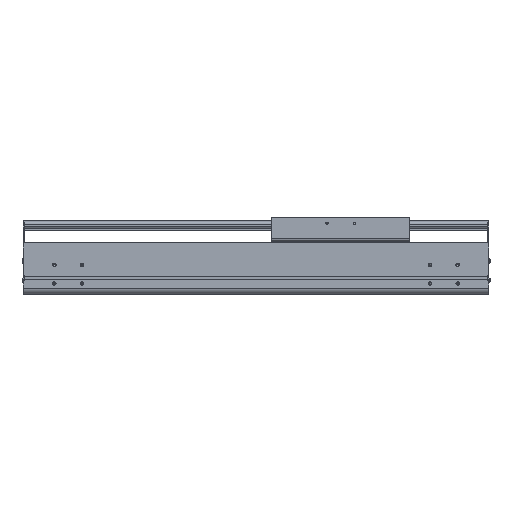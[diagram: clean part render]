
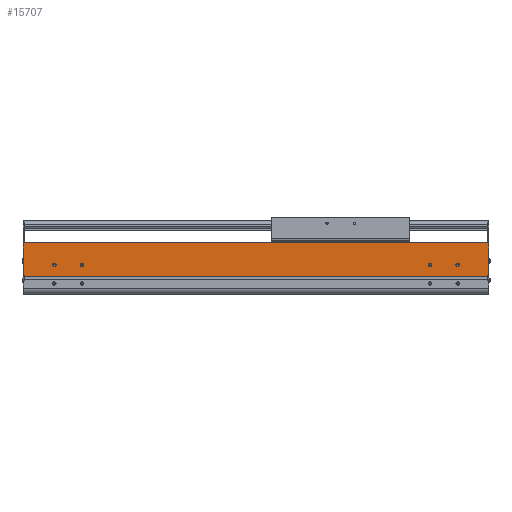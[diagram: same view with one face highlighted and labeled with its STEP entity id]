
A CAD part, top view. The second image highlights one B-rep face of the part: STEP entity #15707.
In plain terms, the highlighted planar face has unit normal (0, 0, 1).
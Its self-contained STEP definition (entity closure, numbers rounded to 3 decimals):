
#1630=DIRECTION('',(0.,-1.,0.));
#1631=VECTOR('',#1630,2.55);
#1632=CARTESIAN_POINT('',(0.,34.65,107.));
#1633=LINE('',#1632,#1631);
#2113=DIRECTION('',(1.,0.,0.));
#2114=VECTOR('',#2113,2.);
#2115=CARTESIAN_POINT('',(-841.,34.65,107.));
#2116=LINE('',#2115,#2114);
#2117=CARTESIAN_POINT('',(-54.5,54.,107.));
#2118=DIRECTION('',(0.,0.,-1.));
#2119=DIRECTION('',(1.,0.,0.));
#2120=AXIS2_PLACEMENT_3D('',#2117,#2118,#2119);
#2122=CARTESIAN_POINT('',(-54.5,54.,107.));
#2123=DIRECTION('',(0.,0.,-1.));
#2124=DIRECTION('',(-1.,0.,0.));
#2125=AXIS2_PLACEMENT_3D('',#2122,#2123,#2124);
#2127=CARTESIAN_POINT('',(-104.5,54.,107.));
#2128=DIRECTION('',(0.,0.,-1.));
#2129=DIRECTION('',(1.,0.,0.));
#2130=AXIS2_PLACEMENT_3D('',#2127,#2128,#2129);
#2132=CARTESIAN_POINT('',(-104.5,54.,107.));
#2133=DIRECTION('',(0.,0.,-1.));
#2134=DIRECTION('',(-1.,0.,0.));
#2135=AXIS2_PLACEMENT_3D('',#2132,#2133,#2134);
#2137=CARTESIAN_POINT('',(-784.5,54.,107.));
#2138=DIRECTION('',(0.,0.,-1.));
#2139=DIRECTION('',(1.,0.,0.));
#2140=AXIS2_PLACEMENT_3D('',#2137,#2138,#2139);
#2142=CARTESIAN_POINT('',(-784.5,54.,107.));
#2143=DIRECTION('',(0.,0.,-1.));
#2144=DIRECTION('',(-1.,0.,0.));
#2145=AXIS2_PLACEMENT_3D('',#2142,#2143,#2144);
#2147=CARTESIAN_POINT('',(-734.5,54.,107.));
#2148=DIRECTION('',(0.,0.,-1.));
#2149=DIRECTION('',(1.,0.,0.));
#2150=AXIS2_PLACEMENT_3D('',#2147,#2148,#2149);
#2152=CARTESIAN_POINT('',(-734.5,54.,107.));
#2153=DIRECTION('',(0.,0.,-1.));
#2154=DIRECTION('',(-1.,0.,0.));
#2155=AXIS2_PLACEMENT_3D('',#2152,#2153,#2154);
#2157=DIRECTION('',(0.,-1.,0.));
#2158=VECTOR('',#2157,2.55);
#2159=CARTESIAN_POINT('',(-839.,34.65,107.));
#2160=LINE('',#2159,#2158);
#2161=DIRECTION('',(0.,-1.,0.));
#2162=VECTOR('',#2161,58.85);
#2163=CARTESIAN_POINT('',(-841.,93.5,107.));
#2164=LINE('',#2163,#2162);
#2165=DIRECTION('',(0.,1.,0.));
#2166=VECTOR('',#2165,58.85);
#2167=CARTESIAN_POINT('',(2.,34.65,107.));
#2168=LINE('',#2167,#2166);
#2169=DIRECTION('',(1.,0.,0.));
#2170=VECTOR('',#2169,839.);
#2171=CARTESIAN_POINT('',(-839.,32.1,107.));
#2172=LINE('',#2171,#2170);
#2277=DIRECTION('',(-1.,0.,0.));
#2278=VECTOR('',#2277,843.);
#2279=CARTESIAN_POINT('',(2.,93.5,107.));
#2280=LINE('',#2279,#2278);
#9051=DIRECTION('',(1.,0.,0.));
#9052=VECTOR('',#9051,2.);
#9053=CARTESIAN_POINT('',(0.,34.65,107.));
#9054=LINE('',#9053,#9052);
#10301=CARTESIAN_POINT('',(-841.,34.65,107.));
#10302=VERTEX_POINT('',#10301);
#10303=CARTESIAN_POINT('',(-841.,93.5,107.));
#10304=VERTEX_POINT('',#10303);
#10533=CARTESIAN_POINT('',(-839.,32.1,107.));
#10534=VERTEX_POINT('',#10533);
#10921=CARTESIAN_POINT('',(0.,32.1,107.));
#10922=VERTEX_POINT('',#10921);
#10923=CARTESIAN_POINT('',(-52.,54.,107.));
#10924=CARTESIAN_POINT('',(-57.,54.,107.));
#10925=VERTEX_POINT('',#10923);
#10926=VERTEX_POINT('',#10924);
#10927=CARTESIAN_POINT('',(-102.,54.,107.));
#10928=CARTESIAN_POINT('',(-107.,54.,107.));
#10929=VERTEX_POINT('',#10927);
#10930=VERTEX_POINT('',#10928);
#10931=CARTESIAN_POINT('',(-782.,54.,107.));
#10932=CARTESIAN_POINT('',(-787.,54.,107.));
#10933=VERTEX_POINT('',#10931);
#10934=VERTEX_POINT('',#10932);
#10935=CARTESIAN_POINT('',(-732.,54.,107.));
#10936=CARTESIAN_POINT('',(-737.,54.,107.));
#10937=VERTEX_POINT('',#10935);
#10938=VERTEX_POINT('',#10936);
#11897=CARTESIAN_POINT('',(2.,34.65,107.));
#11898=VERTEX_POINT('',#11897);
#11899=CARTESIAN_POINT('',(2.,93.5,107.));
#11900=VERTEX_POINT('',#11899);
#12243=CARTESIAN_POINT('',(0.,34.65,107.));
#12244=VERTEX_POINT('',#12243);
#12431=CARTESIAN_POINT('',(-839.,34.65,107.));
#12432=VERTEX_POINT('',#12431);
#15665=CARTESIAN_POINT('',(-419.5,62.8,107.));
#15666=DIRECTION('',(0.,0.,1.));
#15667=DIRECTION('',(0.,-1.,0.));
#15668=AXIS2_PLACEMENT_3D('',#15665,#15666,#15667);
#15669=PLANE('',#15668);
#15670=ORIENTED_EDGE('',*,*,#13918,.F.);
#15671=ORIENTED_EDGE('',*,*,#15660,.F.);
#15672=ORIENTED_EDGE('',*,*,#14547,.F.);
#15674=ORIENTED_EDGE('',*,*,#15673,.F.);
#15675=ORIENTED_EDGE('',*,*,#13656,.F.);
#15677=ORIENTED_EDGE('',*,*,#15676,.F.);
#15678=ORIENTED_EDGE('',*,*,#15267,.T.);
#15680=ORIENTED_EDGE('',*,*,#15679,.F.);
#15681=EDGE_LOOP('',(#15670,#15671,#15672,#15674,#15675,#15677,#15678,#15680));
#15682=FACE_OUTER_BOUND('',#15681,.F.);
#15684=ORIENTED_EDGE('',*,*,#15683,.F.);
#15686=ORIENTED_EDGE('',*,*,#15685,.F.);
#15687=EDGE_LOOP('',(#15684,#15686));
#15688=FACE_BOUND('',#15687,.F.);
#15690=ORIENTED_EDGE('',*,*,#15689,.F.);
#15692=ORIENTED_EDGE('',*,*,#15691,.F.);
#15693=EDGE_LOOP('',(#15690,#15692));
#15694=FACE_BOUND('',#15693,.F.);
#15696=ORIENTED_EDGE('',*,*,#15695,.F.);
#15698=ORIENTED_EDGE('',*,*,#15697,.F.);
#15699=EDGE_LOOP('',(#15696,#15698));
#15700=FACE_BOUND('',#15699,.F.);
#15702=ORIENTED_EDGE('',*,*,#15701,.F.);
#15704=ORIENTED_EDGE('',*,*,#15703,.F.);
#15705=EDGE_LOOP('',(#15702,#15704));
#15706=FACE_BOUND('',#15705,.F.);
#15707=ADVANCED_FACE('',(#15682,#15688,#15694,#15700,#15706),#15669,.T.);
#2121=CIRCLE('',#2120,2.5);
#2126=CIRCLE('',#2125,2.5);
#2131=CIRCLE('',#2130,2.5);
#2136=CIRCLE('',#2135,2.5);
#2141=CIRCLE('',#2140,2.5);
#2146=CIRCLE('',#2145,2.5);
#2151=CIRCLE('',#2150,2.5);
#2156=CIRCLE('',#2155,2.5);
#13656=EDGE_CURVE('',#11898,#11900,#2168,.T.);
#13918=EDGE_CURVE('',#12432,#10534,#2160,.T.);
#14547=EDGE_CURVE('',#10304,#10302,#2164,.T.);
#15267=EDGE_CURVE('',#12244,#10922,#1633,.T.);
#15660=EDGE_CURVE('',#10302,#12432,#2116,.T.);
#15673=EDGE_CURVE('',#11900,#10304,#2280,.T.);
#15676=EDGE_CURVE('',#12244,#11898,#9054,.T.);
#15679=EDGE_CURVE('',#10534,#10922,#2172,.T.);
#15683=EDGE_CURVE('',#10929,#10930,#2131,.T.);
#15685=EDGE_CURVE('',#10930,#10929,#2136,.T.);
#15689=EDGE_CURVE('',#10933,#10934,#2141,.T.);
#15691=EDGE_CURVE('',#10934,#10933,#2146,.T.);
#15695=EDGE_CURVE('',#10937,#10938,#2151,.T.);
#15697=EDGE_CURVE('',#10938,#10937,#2156,.T.);
#15701=EDGE_CURVE('',#10925,#10926,#2121,.T.);
#15703=EDGE_CURVE('',#10926,#10925,#2126,.T.);
